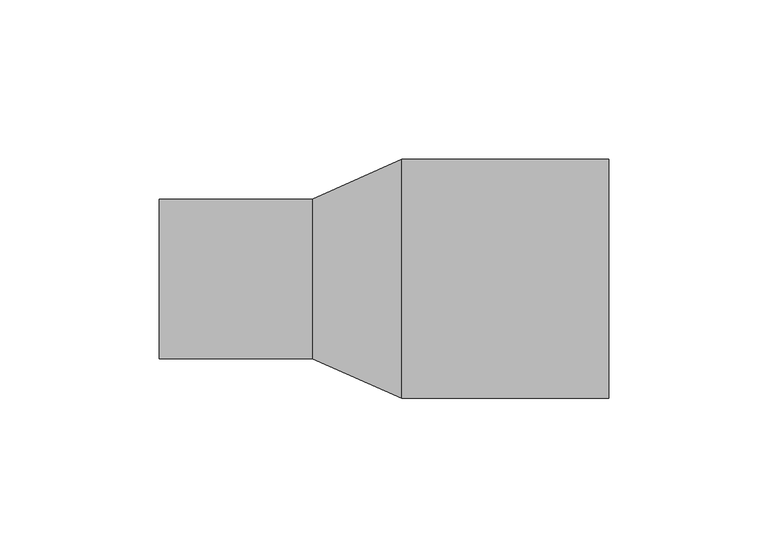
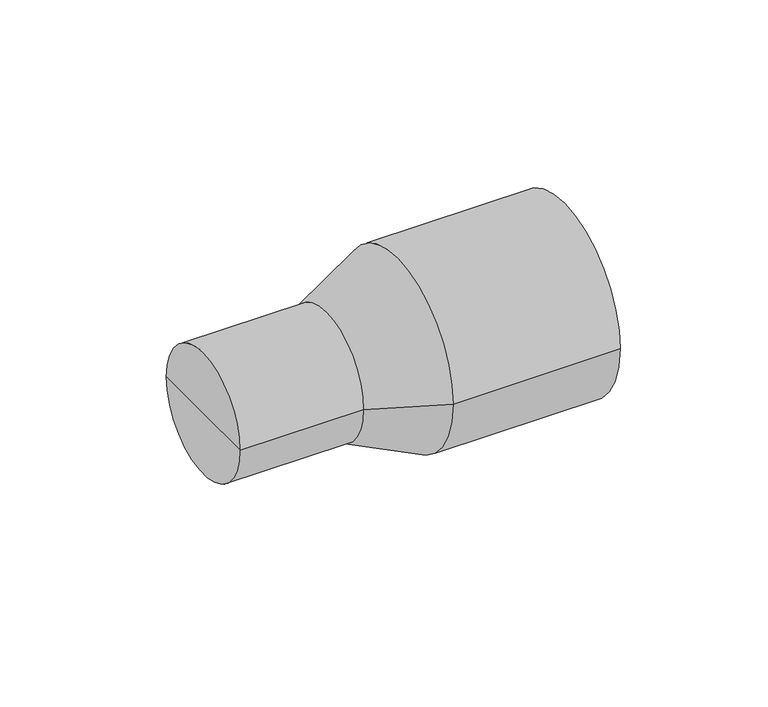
"""IFC4 building model written with IfcOpenShell, lengths in millimetres: pipe fitting geometry, NIRON RED termofusion reduccion macho-macho SDR 11 : Estándar."""

from ifc_helpers import new_model, si_unit, frame, origin, place, context, project, spatial, polyline, circle_curve, source, transform, mapped, element, save
from ifc_brep_helpers import plane_surface, cylinder_surface, revolved_surface, advanced_brep


def pipe_fitting_41b5c333(model_context):
    return source(origin(), model_context, "Body", "AdvancedBrep", [
        advanced_brep(
        [(0.0, -25.0, 0.0), (0.0, 25.0, 0.0), (48.0, 25.0, 0.0), (48.0, -25.0, 0.0), (0.0, 0.0, 0.0), (141.0, -37.5, 0.0), (141.0, 37.5, 0.0), (141.0, 0.0, 0.0), (76.0, -37.5, 0.0), (76.0, 37.5, 0.0)],
        [
            (0, 1, circle_curve(frame((0.0, 0.0, 0.0), z_axis=(1.0, 0.0, 0.0), x_axis=(0.0, 1.0, 0.0)), 25.0)),
            (1, 2),
            (2, 3, circle_curve(frame((48.0, 0.0, 0.0), z_axis=(-1.0, 0.0, 0.0), x_axis=(0.0, 1.0, 0.0)), 25.0)),
            (3, 0),
            (1, 0, circle_curve(frame((0.0, 0.0, 0.0), z_axis=(1.0, 0.0, 0.0), x_axis=(0.0, 1.0, 0.0)), 25.0)),
            (3, 2, circle_curve(frame((48.0, 0.0, 0.0), z_axis=(-1.0, 0.0, 0.0), x_axis=(0.0, 1.0, 0.0)), 25.0)),
            (4, 1),
            (0, 4),
            (5, 6, circle_curve(frame((141.0, 0.0, 0.0), z_axis=(1.0, 0.0, 0.0), x_axis=(0.0, 1.0, 0.0)), 37.5)),
            (6, 7),
            (7, 5),
            (6, 5, circle_curve(frame((141.0, 0.0, 0.0), z_axis=(1.0, 0.0, 0.0), x_axis=(0.0, 1.0, 0.0)), 37.5)),
            (8, 9, circle_curve(frame((76.0, 0.0, 0.0), z_axis=(1.0, 0.0, 0.0), x_axis=(0.0, 1.0, 0.0)), 37.5)),
            (9, 6),
            (5, 8),
            (9, 8, circle_curve(frame((76.0, 0.0, 0.0), z_axis=(1.0, 0.0, 0.0), x_axis=(0.0, 1.0, 0.0)), 37.5)),
            (2, 9),
            (8, 3),
        ],
        [
            cylinder_surface(frame((2000.0, 0.0, 0.0), z_axis=(-1.0, 0.0, 0.0), x_axis=(0.0, 1.0, 0.0)), 25.0),
            plane_surface(frame((0.0, 0.0, 0.0), z_axis=(-1.0, 0.0, 0.0), x_axis=(0.0, 1.0, 0.0))),
            plane_surface(frame((141.0, 0.0, 0.0), z_axis=(1.0, 0.0, 0.0), x_axis=(0.0, 1.0, 0.0))),
            cylinder_surface(frame((2000.0, 0.0, 0.0), z_axis=(-1.0, 0.0, 0.0), x_axis=(0.0, 1.0, 0.0)), 37.5),
            revolved_surface(polyline([(76.0, 37.5, 0.0), (48.0, 25.0, 0.0)]), (2000.0, 0.0, 0.0), (-1.0, 0.0, 0.0)),
        ],
        [
            (0, [[1, 2, 3, 4]]),
            (0, [[5, -4, 6, -2]]),
            (1, [[7, -1, 8]]),
            (1, [[-8, -5, -7]]),
            (2, [[9, 10, 11]]),
            (2, [[12, -11, -10]]),
            (3, [[13, 14, -9, 15]]),
            (3, [[16, -15, -12, -14]]),
            (4, [[-3, 17, -13, 18]]),
            (4, [[-6, -18, -16, -17]]),
        ],
    ),
    ])


if __name__ == "__main__":
    model = new_model("IFC4")
    model_context = context("Model", 3, world=origin())
    ifc_project = project(units=[si_unit("LENGTHUNIT", "METRE", prefix="MILLI")], contexts=[model_context])
    site = spatial("IfcSite", under=ifc_project)
    building = spatial("IfcBuilding", under=site)
    placement = place(None, origin())
    pipe_fitting_shape = pipe_fitting_41b5c333(model_context)
    element("IfcPipeFitting", 1, ObjectType="NIRON RED termofusion reduccion macho-macho SDR 11 : Estándar", at=placement, inside=building, context=model_context, shape_type="MappedRepresentation", body=[
        mapped(pipe_fitting_shape, transform((0.0, 0.0, 0.0), x_axis=(1.0, 0.0, 0.0), y_axis=(0.0, 1.0, 0.0), z_axis=(0.0, 0.0, 1.0))),
    ])
    save(model, "model.ifc")
